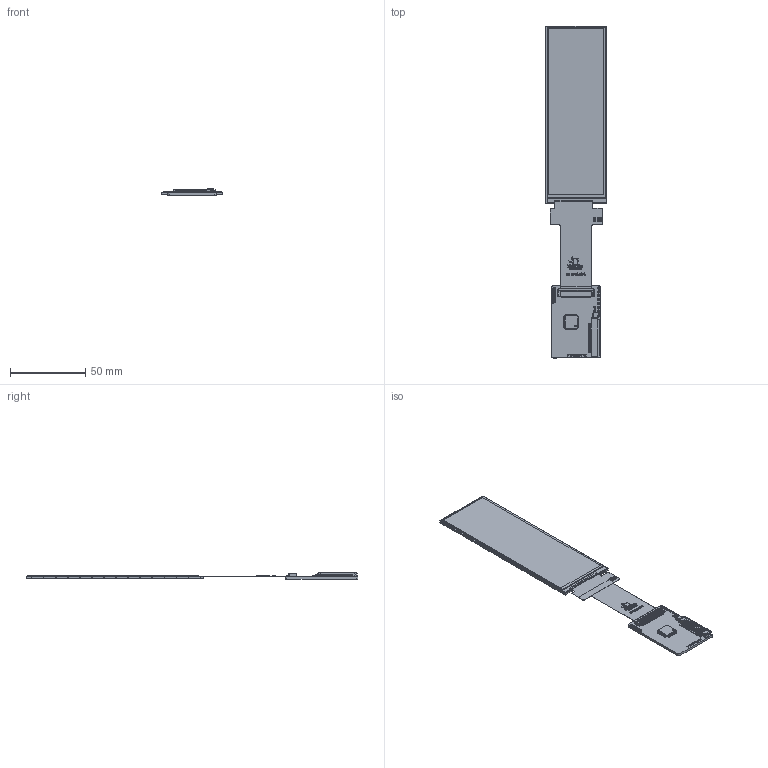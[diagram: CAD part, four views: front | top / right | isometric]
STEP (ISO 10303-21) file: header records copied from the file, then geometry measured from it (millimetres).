
FILE_DESCRIPTION (( 'STEP AP214' ), '1' );
FILE_NAME ('ER-TFT4.58-1-6011.STEP', '2024-08-26T06:01:14', ( '微软用户' ), ( '微软中国' ), 'SwSTEP 2.0', 'SolidWorks 2023', '' );
FILE_SCHEMA (( 'AUTOMOTIVE_DESIGN' ));
Length unit declared in the file: millimetre
Products named in the file (3): ER-TFT4.58-1-6011; ER-TFT4.58-1; ER-6011-Controller Board
Assembly tree (2 placements, depth 2):
  ER-TFT4.58-1-6011
    ER-6011-Controller Board
    ER-TFT4.58-1
Bounding box: 40.37 x 220.33 x 4.32 mm (x, y, z)
Volume: 12750.1 mm3; surface area: 20735.9 mm2
Topology: 183 solids, 183 shells, 5595 faces, 16281 edges, 10559 vertices
Faces by surface type: plane 4128, cylinder 741, bspline 726
Entity records: 262090 total; most frequent: CARTESIAN_POINT 66364, ORIENTED_EDGE 32532, DIRECTION 25684, EDGE_CURVE 16266, VECTOR 13272, LINE 13272, VERTEX_POINT 10559, AXIS2_PLACEMENT_3D 6206
